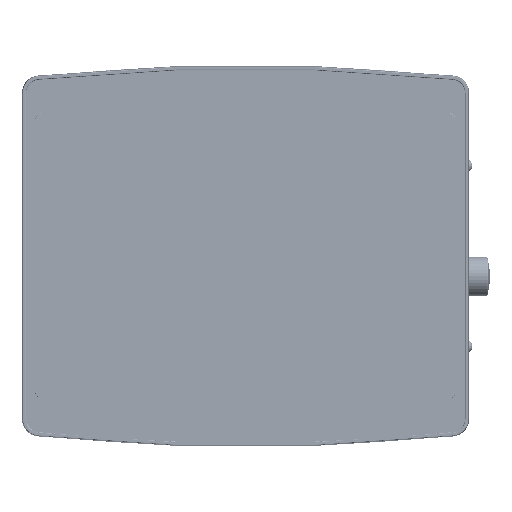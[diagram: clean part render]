
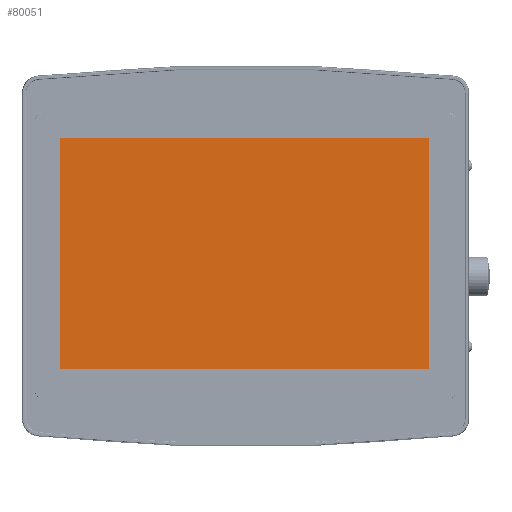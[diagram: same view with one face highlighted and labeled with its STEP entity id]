
A CAD part, top view. The second image highlights one B-rep face of the part: STEP entity #80051.
In plain terms, the highlighted planar face has unit normal (0, 0, 1).
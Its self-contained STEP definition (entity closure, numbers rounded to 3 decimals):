
#2051 = FACE_OUTER_BOUND ( 'NONE', #251480, .T. ) ;
#5409 = VECTOR ( 'NONE', #290100, 1000. ) ;
#5613 = DIRECTION ( 'NONE',  ( 0., 0., 1. ) ) ;
#10718 = CARTESIAN_POINT ( 'NONE',  ( 108.35, 69.865, 0. ) ) ;
#15309 = ORIENTED_EDGE ( 'NONE', *, *, #120695, .T. ) ;
#19553 = CARTESIAN_POINT ( 'NONE',  ( -109.35, -66.535, 0. ) ) ;
#31924 = PLANE ( 'NONE',  #134197 ) ;
#61244 = CARTESIAN_POINT ( 'NONE',  ( 108.35, -66.535, 0. ) ) ;
#74229 = CARTESIAN_POINT ( 'NONE',  ( -109.35, 69.865, 0. ) ) ;
#78261 = LINE ( 'NONE', #262585, #5409 ) ;
#80051 = ADVANCED_FACE ( 'NONE', ( #2051 ), #31924, .T. ) ;
#82878 = DIRECTION ( 'NONE',  ( 0., -1., 0. ) ) ;
#97870 = VECTOR ( 'NONE', #229898, 1000. ) ;
#112274 = LINE ( 'NONE', #74229, #257924 ) ;
#115821 = CARTESIAN_POINT ( 'NONE',  ( -109.35, 69.865, 0. ) ) ;
#120695 = EDGE_CURVE ( 'NONE', #262729, #265674, #112274, .T. ) ;
#124595 = EDGE_CURVE ( 'NONE', #321455, #208626, #78261, .T. ) ;
#134197 = AXIS2_PLACEMENT_3D ( 'NONE', #169621, #5613, #197108 ) ;
#159217 = ORIENTED_EDGE ( 'NONE', *, *, #124595, .T. ) ;
#169621 = CARTESIAN_POINT ( 'NONE',  ( 0., 0., 0. ) ) ;
#170712 = LINE ( 'NONE', #10718, #97870 ) ;
#186300 = ORIENTED_EDGE ( 'NONE', *, *, #288227, .T. ) ;
#197108 = DIRECTION ( 'NONE',  ( 1., 0., 0. ) ) ;
#208626 = VERTEX_POINT ( 'NONE', #61244 ) ;
#229898 = DIRECTION ( 'NONE',  ( 0., 1., 0. ) ) ;
#243978 = VECTOR ( 'NONE', #82878, 1000. ) ;
#246894 = CARTESIAN_POINT ( 'NONE',  ( -109.35, 69.865, 0. ) ) ;
#251480 = EDGE_LOOP ( 'NONE', ( #314637, #159217, #186300, #15309 ) ) ;
#257924 = VECTOR ( 'NONE', #265750, 1000. ) ;
#262585 = CARTESIAN_POINT ( 'NONE',  ( -109.35, -66.535, 0. ) ) ;
#262729 = VERTEX_POINT ( 'NONE', #297880 ) ;
#265674 = VERTEX_POINT ( 'NONE', #115821 ) ;
#265750 = DIRECTION ( 'NONE',  ( -1., 0., 0. ) ) ;
#278334 = EDGE_CURVE ( 'NONE', #265674, #321455, #316843, .T. ) ;
#288227 = EDGE_CURVE ( 'NONE', #208626, #262729, #170712, .T. ) ;
#290100 = DIRECTION ( 'NONE',  ( 1., 0., 0. ) ) ;
#297880 = CARTESIAN_POINT ( 'NONE',  ( 108.35, 69.865, 0. ) ) ;
#314637 = ORIENTED_EDGE ( 'NONE', *, *, #278334, .T. ) ;
#316843 = LINE ( 'NONE', #246894, #243978 ) ;
#321455 = VERTEX_POINT ( 'NONE', #19553 ) ;
